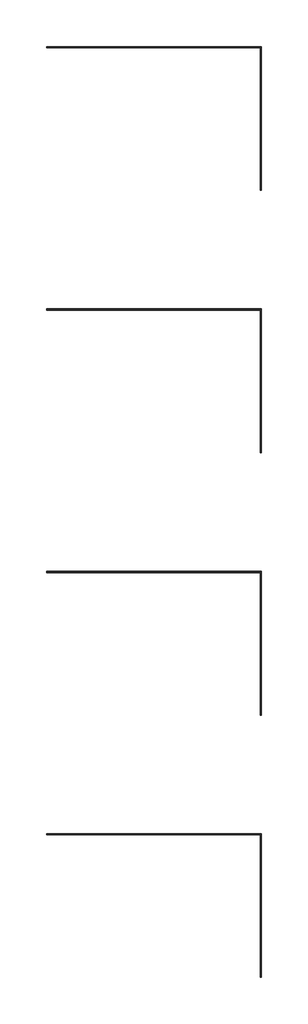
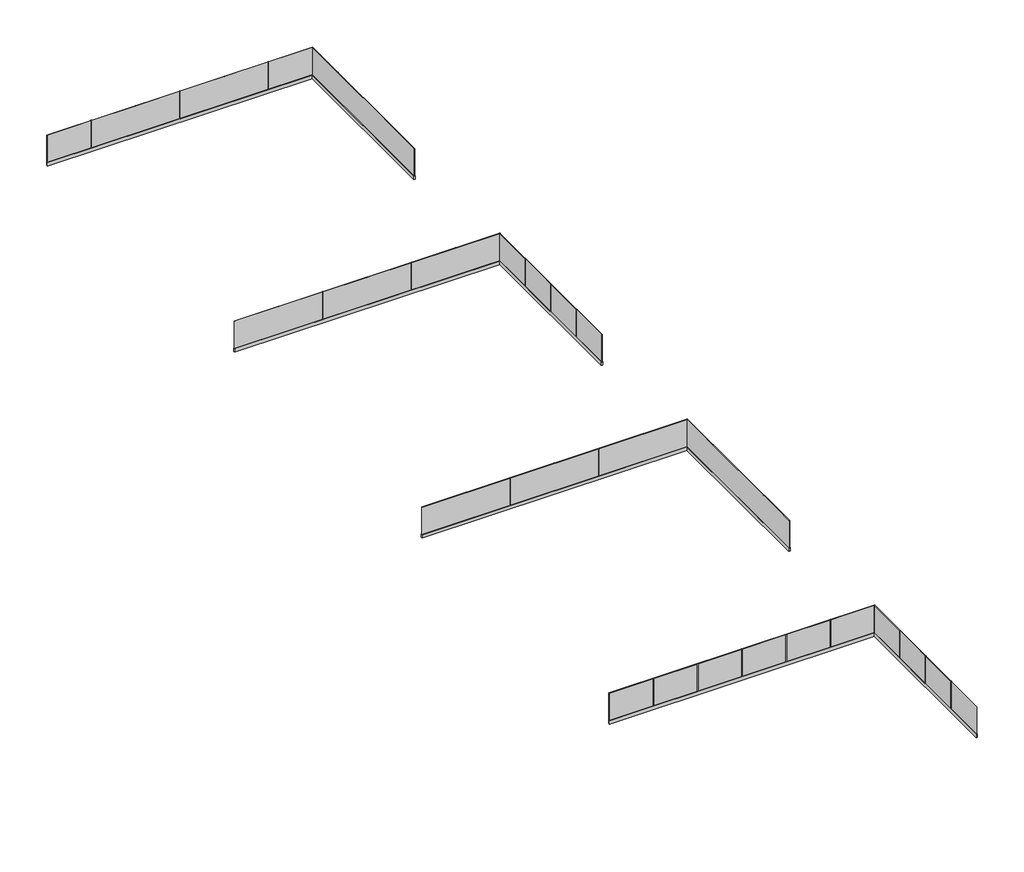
# One storey: 4 railings.
"""IFC4 building model written with IfcOpenShell, lengths in millimetres."""

from ifc_helpers import new_model, si_unit, frame, origin, place, context, project, spatial, polyline, outline, extrude, faceted_brep, element, save

model = new_model("IFC4")

# Units and contexts
model_context = context("Model", 3, world=origin())
ifc_project = project(units=[si_unit("LENGTHUNIT", "METRE", prefix="MILLI")], contexts=[model_context])

# Site, building, storey
site = spatial("IfcSite", under=ifc_project)
building = spatial("IfcBuilding", under=site)
storey = spatial("IfcBuildingStorey", under=building, Name="レベル 1", Elevation=0.0)

# Railings
placement = place(None, origin())
element("IfcRailing", 1, ObjectType="バラストレイド スリムタイプ 床付用 ガラス12mm", at=placement, inside=storey, context=model_context, shape_type="SolidModel", body=[
    faceted_brep([(-7072.0241721, 2607.537995, 1100.0), (-7072.0241721, 2607.537995, 124.0), (-7072.0241721, 2595.537995, 124.0), (-7072.0241721, 2595.537995, 1100.0), (1933.9758279, 2607.537995, 1100.0), (1933.9758279, 2607.537995, 124.0), (1921.9758279, 2595.537995, 124.0), (1921.9758279, 2595.537995, 1100.0), (1933.9758279, -3398.462005, 1100.0), (1921.9758279, -3398.462005, 1100.0), (1921.9758279, -3398.462005, 124.0), (1933.9758279, -3398.462005, 124.0)], [[[0, 1, 2, 3]], [[1, 0, 4, 5]], [[2, 1, 5, 6]], [[3, 2, 6, 7]], [[0, 3, 7, 4]], [[8, 9, 10, 11]], [[5, 4, 8, 11]], [[6, 5, 11, 10]], [[7, 6, 10, 9]], [[4, 7, 9, 8]]]),
    faceted_brep([(-7072.0241721, 2577.037995, 0.0), (-7072.0241721, 2577.037995, 124.0), (-7072.0241721, 2626.037995, 124.0), (-7072.0241721, 2626.037995, 0.0), (1903.4758279, -3398.462005, 0.0), (1952.4758279, -3398.462005, 0.0), (1952.4758279, -3398.462005, 124.0), (1903.4758279, -3398.462005, 124.0), (1952.4758279, 2626.037995, 0.0), (1903.4758279, 2577.037995, 0.0), (1952.4758279, 2626.037995, 124.0), (1903.4758279, 2577.037995, 124.0)], [[[0, 1, 2, 3]], [[4, 5, 6, 7]], [[0, 3, 8, 9]], [[3, 2, 10, 8]], [[2, 1, 11, 10]], [[1, 0, 9, 11]], [[9, 8, 5, 4]], [[8, 10, 6, 5]], [[10, 11, 7, 6]], [[11, 9, 4, 7]]]),
    extrude(outline(polyline([(1933.9758279, -1888.462005), (1933.9758279, -1908.462005), (1921.9758279, -1908.462005), (1921.9758279, -1888.462005), (1933.9758279, -1888.462005)])), frame((0.0, 0.0, 124.0), z_axis=(0.0, 0.0, 1.0), x_axis=(1.0, 0.0, 0.0)), (0.0, 0.0, 1.0), 976.0),
    extrude(outline(polyline([(1933.9758279, -388.462005), (1933.9758279, -408.462005), (1921.9758279, -408.462005), (1921.9758279, -388.462005), (1933.9758279, -388.462005)])), frame((0.0, 0.0, 124.0), z_axis=(0.0, 0.0, 1.0), x_axis=(1.0, 0.0, 0.0)), (0.0, 0.0, 1.0), 976.0),
    extrude(outline(polyline([(1933.9758279, 1111.537995), (1933.9758279, 1091.537995), (1921.9758279, 1091.537995), (1921.9758279, 1111.537995), (1933.9758279, 1111.537995)])), frame((0.0, 0.0, 124.0), z_axis=(0.0, 0.0, 1.0), x_axis=(1.0, 0.0, 0.0)), (0.0, 0.0, 1.0), 976.0),
    extrude(outline(polyline([(417.9758279, 2607.537995), (437.9758279, 2607.537995), (437.9758279, 2595.537995), (417.9758279, 2595.537995), (417.9758279, 2607.537995)])), frame((0.0, 0.0, 124.0), z_axis=(0.0, 0.0, 1.0), x_axis=(1.0, 0.0, 0.0)), (0.0, 0.0, 1.0), 976.0),
    extrude(outline(polyline([(-1082.0241721, 2607.537995), (-1062.0241721, 2607.537995), (-1062.0241721, 2595.537995), (-1082.0241721, 2595.537995), (-1082.0241721, 2607.537995)])), frame((0.0, 0.0, 124.0), z_axis=(0.0, 0.0, 1.0), x_axis=(1.0, 0.0, 0.0)), (0.0, 0.0, 1.0), 976.0),
    extrude(outline(polyline([(-2582.0241721, 2607.537995), (-2562.0241721, 2607.537995), (-2562.0241721, 2595.537995), (-2582.0241721, 2595.537995), (-2582.0241721, 2607.537995)])), frame((0.0, 0.0, 124.0), z_axis=(0.0, 0.0, 1.0), x_axis=(1.0, 0.0, 0.0)), (0.0, 0.0, 1.0), 976.0),
    extrude(outline(polyline([(-4082.0241721, 2607.537995), (-4062.0241721, 2607.537995), (-4062.0241721, 2595.537995), (-4082.0241721, 2595.537995), (-4082.0241721, 2607.537995)])), frame((0.0, 0.0, 124.0), z_axis=(0.0, 0.0, 1.0), x_axis=(1.0, 0.0, 0.0)), (0.0, 0.0, 1.0), 976.0),
    extrude(outline(polyline([(-5582.0241721, 2607.537995), (-5562.0241721, 2607.537995), (-5562.0241721, 2595.537995), (-5582.0241721, 2595.537995), (-5582.0241721, 2607.537995)])), frame((0.0, 0.0, 124.0), z_axis=(0.0, 0.0, 1.0), x_axis=(1.0, 0.0, 0.0)), (0.0, 0.0, 1.0), 976.0),
    extrude(outline(polyline([(1921.9758279, 2607.537995), (1933.9758279, 2607.537995), (1933.9758279, 2595.537995), (1921.9758279, 2595.537995), (1921.9758279, 2607.537995)])), frame((0.0, 0.0, 124.0), z_axis=(0.0, 0.0, 1.0), x_axis=(1.0, 0.0, 0.0)), (0.0, 0.0, 1.0), 976.0),
])
element("IfcRailing", 2, ObjectType="バラストレイド スリムタイプ 床付用 ガラス 15mm", at=placement, inside=storey, context=model_context, shape_type="SolidModel", body=[
    faceted_brep([(-7072.0241721, -8390.962005, 1100.0), (-7072.0241721, -8390.962005, 124.0), (-7072.0241721, -8405.962005, 124.0), (-7072.0241721, -8405.962005, 1100.0), (1935.4758279, -8390.962005, 1100.0), (1935.4758279, -8390.962005, 124.0), (1920.4758279, -8405.962005, 124.0), (1920.4758279, -8405.962005, 1100.0), (1935.4758279, -14398.462005, 1100.0), (1920.4758279, -14398.462005, 1100.0), (1920.4758279, -14398.462005, 124.0), (1935.4758279, -14398.462005, 124.0)], [[[0, 1, 2, 3]], [[1, 0, 4, 5]], [[2, 1, 5, 6]], [[3, 2, 6, 7]], [[0, 3, 7, 4]], [[8, 9, 10, 11]], [[5, 4, 8, 11]], [[6, 5, 11, 10]], [[7, 6, 10, 9]], [[4, 7, 9, 8]]]),
    faceted_brep([(-7072.0241721, -8422.962005, 0.0), (-7072.0241721, -8422.962005, 124.0), (-7072.0241721, -8373.962005, 124.0), (-7072.0241721, -8373.962005, 0.0), (1903.4758279, -14398.462005, 0.0), (1952.4758279, -14398.462005, 0.0), (1952.4758279, -14398.462005, 124.0), (1903.4758279, -14398.462005, 124.0), (1952.4758279, -8373.962005, 0.0), (1903.4758279, -8422.962005, 0.0), (1952.4758279, -8373.962005, 124.0), (1903.4758279, -8422.962005, 124.0)], [[[0, 1, 2, 3]], [[4, 5, 6, 7]], [[0, 3, 8, 9]], [[3, 2, 10, 8]], [[2, 1, 11, 10]], [[1, 0, 9, 11]], [[9, 8, 5, 4]], [[8, 10, 6, 5]], [[10, 11, 7, 6]], [[11, 9, 4, 7]]]),
    extrude(outline(polyline([(1935.4758279, -12888.462005), (1935.4758279, -12908.462005), (1920.4758279, -12908.462005), (1920.4758279, -12888.462005), (1935.4758279, -12888.462005)])), frame((0.0, 0.0, 124.0), z_axis=(0.0, 0.0, 1.0), x_axis=(1.0, 0.0, 0.0)), (0.0, 0.0, 1.0), 976.0),
    extrude(outline(polyline([(1935.4758279, -11388.462005), (1935.4758279, -11408.462005), (1920.4758279, -11408.462005), (1920.4758279, -11388.462005), (1935.4758279, -11388.462005)])), frame((0.0, 0.0, 124.0), z_axis=(0.0, 0.0, 1.0), x_axis=(1.0, 0.0, 0.0)), (0.0, 0.0, 1.0), 976.0),
    extrude(outline(polyline([(1935.4758279, -9888.462005), (1935.4758279, -9908.462005), (1920.4758279, -9908.462005), (1920.4758279, -9888.462005), (1935.4758279, -9888.462005)])), frame((0.0, 0.0, 124.0), z_axis=(0.0, 0.0, 1.0), x_axis=(1.0, 0.0, 0.0)), (0.0, 0.0, 1.0), 976.0),
    extrude(outline(polyline([(417.9758279, -8390.962005), (437.9758279, -8390.962005), (437.9758279, -8405.962005), (417.9758279, -8405.962005), (417.9758279, -8390.962005)])), frame((0.0, 0.0, 124.0), z_axis=(0.0, 0.0, 1.0), x_axis=(1.0, 0.0, 0.0)), (0.0, 0.0, 1.0), 976.0),
    extrude(outline(polyline([(-1082.0241721, -8390.962005), (-1062.0241721, -8390.962005), (-1062.0241721, -8405.962005), (-1082.0241721, -8405.962005), (-1082.0241721, -8390.962005)])), frame((0.0, 0.0, 124.0), z_axis=(0.0, 0.0, 1.0), x_axis=(1.0, 0.0, 0.0)), (0.0, 0.0, 1.0), 976.0),
    extrude(outline(polyline([(-2582.0241721, -8390.962005), (-2562.0241721, -8390.962005), (-2562.0241721, -8405.962005), (-2582.0241721, -8405.962005), (-2582.0241721, -8390.962005)])), frame((0.0, 0.0, 124.0), z_axis=(0.0, 0.0, 1.0), x_axis=(1.0, 0.0, 0.0)), (0.0, 0.0, 1.0), 976.0),
    extrude(outline(polyline([(-4082.0241721, -8390.962005), (-4062.0241721, -8390.962005), (-4062.0241721, -8405.962005), (-4082.0241721, -8405.962005), (-4082.0241721, -8390.962005)])), frame((0.0, 0.0, 124.0), z_axis=(0.0, 0.0, 1.0), x_axis=(1.0, 0.0, 0.0)), (0.0, 0.0, 1.0), 976.0),
    extrude(outline(polyline([(-5582.0241721, -8390.962005), (-5562.0241721, -8390.962005), (-5562.0241721, -8405.962005), (-5582.0241721, -8405.962005), (-5582.0241721, -8390.962005)])), frame((0.0, 0.0, 124.0), z_axis=(0.0, 0.0, 1.0), x_axis=(1.0, 0.0, 0.0)), (0.0, 0.0, 1.0), 976.0),
    extrude(outline(polyline([(1920.4758279, -8390.962005), (1935.4758279, -8390.962005), (1935.4758279, -8405.962005), (1920.4758279, -8405.962005), (1920.4758279, -8390.962005)])), frame((0.0, 0.0, 124.0), z_axis=(0.0, 0.0, 1.0), x_axis=(1.0, 0.0, 0.0)), (0.0, 0.0, 1.0), 976.0),
])
element("IfcRailing", 3, ObjectType="バラストレイド スリムタイプ 床付用 ガラス8+8mm", at=placement, inside=storey, context=model_context, shape_type="SolidModel", body=[
    faceted_brep([(-7072.0241721, -19389.712005, 1100.0), (-7072.0241721, -19389.712005, 124.0), (-7072.0241721, -19407.212005, 124.0), (-7072.0241721, -19407.212005, 1100.0), (1936.7258279, -19389.712005, 1100.0), (1936.7258279, -19389.712005, 124.0), (1919.2258279, -19407.212005, 124.0), (1919.2258279, -19407.212005, 1100.0), (1936.7258279, -25398.462005, 1100.0), (1919.2258279, -25398.462005, 1100.0), (1919.2258279, -25398.462005, 124.0), (1936.7258279, -25398.462005, 124.0)], [[[0, 1, 2, 3]], [[1, 0, 4, 5]], [[2, 1, 5, 6]], [[3, 2, 6, 7]], [[0, 3, 7, 4]], [[8, 9, 10, 11]], [[5, 4, 8, 11]], [[6, 5, 11, 10]], [[7, 6, 10, 9]], [[4, 7, 9, 8]]]),
    faceted_brep([(-7072.0241721, -19422.962005, 0.0), (-7072.0241721, -19422.962005, 124.0), (-7072.0241721, -19373.962005, 124.0), (-7072.0241721, -19373.962005, 0.0), (1903.4758279, -25398.462005, 0.0), (1952.4758279, -25398.462005, 0.0), (1952.4758279, -25398.462005, 124.0), (1903.4758279, -25398.462005, 124.0), (1952.4758279, -19373.962005, 0.0), (1903.4758279, -19422.962005, 0.0), (1952.4758279, -19373.962005, 124.0), (1903.4758279, -19422.962005, 124.0)], [[[0, 1, 2, 3]], [[4, 5, 6, 7]], [[0, 3, 8, 9]], [[3, 2, 10, 8]], [[2, 1, 11, 10]], [[1, 0, 9, 11]], [[9, 8, 5, 4]], [[8, 10, 6, 5]], [[10, 11, 7, 6]], [[11, 9, 4, 7]]]),
    extrude(outline(polyline([(1936.7258279, -23888.462005), (1936.7258279, -23908.462005), (1919.2258279, -23908.462005), (1919.2258279, -23888.462005), (1936.7258279, -23888.462005)])), frame((0.0, 0.0, 124.0), z_axis=(0.0, 0.0, 1.0), x_axis=(1.0, 0.0, 0.0)), (0.0, 0.0, 1.0), 976.0),
    extrude(outline(polyline([(1936.7258279, -22388.462005), (1936.7258279, -22408.462005), (1919.2258279, -22408.462005), (1919.2258279, -22388.462005), (1936.7258279, -22388.462005)])), frame((0.0, 0.0, 124.0), z_axis=(0.0, 0.0, 1.0), x_axis=(1.0, 0.0, 0.0)), (0.0, 0.0, 1.0), 976.0),
    extrude(outline(polyline([(1936.7258279, -20888.462005), (1936.7258279, -20908.462005), (1919.2258279, -20908.462005), (1919.2258279, -20888.462005), (1936.7258279, -20888.462005)])), frame((0.0, 0.0, 124.0), z_axis=(0.0, 0.0, 1.0), x_axis=(1.0, 0.0, 0.0)), (0.0, 0.0, 1.0), 976.0),
    extrude(outline(polyline([(417.9758279, -19389.712005), (437.9758279, -19389.712005), (437.9758279, -19407.212005), (417.9758279, -19407.212005), (417.9758279, -19389.712005)])), frame((0.0, 0.0, 124.0), z_axis=(0.0, 0.0, 1.0), x_axis=(1.0, 0.0, 0.0)), (0.0, 0.0, 1.0), 976.0),
    extrude(outline(polyline([(-1082.0241721, -19389.712005), (-1062.0241721, -19389.712005), (-1062.0241721, -19407.212005), (-1082.0241721, -19407.212005), (-1082.0241721, -19389.712005)])), frame((0.0, 0.0, 124.0), z_axis=(0.0, 0.0, 1.0), x_axis=(1.0, 0.0, 0.0)), (0.0, 0.0, 1.0), 976.0),
    extrude(outline(polyline([(-2582.0241721, -19389.712005), (-2562.0241721, -19389.712005), (-2562.0241721, -19407.212005), (-2582.0241721, -19407.212005), (-2582.0241721, -19389.712005)])), frame((0.0, 0.0, 124.0), z_axis=(0.0, 0.0, 1.0), x_axis=(1.0, 0.0, 0.0)), (0.0, 0.0, 1.0), 976.0),
    extrude(outline(polyline([(-4082.0241721, -19389.712005), (-4062.0241721, -19389.712005), (-4062.0241721, -19407.212005), (-4082.0241721, -19407.212005), (-4082.0241721, -19389.712005)])), frame((0.0, 0.0, 124.0), z_axis=(0.0, 0.0, 1.0), x_axis=(1.0, 0.0, 0.0)), (0.0, 0.0, 1.0), 976.0),
    extrude(outline(polyline([(-5582.0241721, -19389.712005), (-5562.0241721, -19389.712005), (-5562.0241721, -19407.212005), (-5582.0241721, -19407.212005), (-5582.0241721, -19389.712005)])), frame((0.0, 0.0, 124.0), z_axis=(0.0, 0.0, 1.0), x_axis=(1.0, 0.0, 0.0)), (0.0, 0.0, 1.0), 976.0),
    extrude(outline(polyline([(1919.2258279, -19389.712005), (1936.7258279, -19389.712005), (1936.7258279, -19407.212005), (1919.2258279, -19407.212005), (1919.2258279, -19389.712005)])), frame((0.0, 0.0, 124.0), z_axis=(0.0, 0.0, 1.0), x_axis=(1.0, 0.0, 0.0)), (0.0, 0.0, 1.0), 976.0),
])
element("IfcRailing", 4, ObjectType="バラストレイド スリムタイプ 床付用 ガラス10+10mm", at=placement, inside=storey, context=model_context, shape_type="SolidModel", body=[
    faceted_brep([(-7072.0241721, -30392.462005, 1100.0), (-7072.0241721, -30392.462005, 124.0), (-7072.0241721, -30404.462005, 124.0), (-7072.0241721, -30404.462005, 1100.0), (1933.9758279, -30392.462005, 1100.0), (1933.9758279, -30392.462005, 124.0), (1921.9758279, -30404.462005, 124.0), (1921.9758279, -30404.462005, 1100.0), (1933.9758279, -36398.462005, 1100.0), (1921.9758279, -36398.462005, 1100.0), (1921.9758279, -36398.462005, 124.0), (1933.9758279, -36398.462005, 124.0)], [[[0, 1, 2, 3]], [[1, 0, 4, 5]], [[2, 1, 5, 6]], [[3, 2, 6, 7]], [[0, 3, 7, 4]], [[8, 9, 10, 11]], [[5, 4, 8, 11]], [[6, 5, 11, 10]], [[7, 6, 10, 9]], [[4, 7, 9, 8]]]),
    faceted_brep([(-7072.0241721, -30422.962005, 0.0), (-7072.0241721, -30422.962005, 124.0), (-7072.0241721, -30373.962005, 124.0), (-7072.0241721, -30373.962005, 0.0), (1903.4758279, -36398.462005, 0.0), (1952.4758279, -36398.462005, 0.0), (1952.4758279, -36398.462005, 124.0), (1903.4758279, -36398.462005, 124.0), (1952.4758279, -30373.962005, 0.0), (1903.4758279, -30422.962005, 0.0), (1952.4758279, -30373.962005, 124.0), (1903.4758279, -30422.962005, 124.0)], [[[0, 1, 2, 3]], [[4, 5, 6, 7]], [[0, 3, 8, 9]], [[3, 2, 10, 8]], [[2, 1, 11, 10]], [[1, 0, 9, 11]], [[9, 8, 5, 4]], [[8, 10, 6, 5]], [[10, 11, 7, 6]], [[11, 9, 4, 7]]]),
    extrude(outline(polyline([(1938.7258279, -34888.462005), (1938.7258279, -34908.462005), (1917.2258279, -34908.462005), (1917.2258279, -34888.462005), (1938.7258279, -34888.462005)])), frame((0.0, 0.0, 124.0), z_axis=(0.0, 0.0, 1.0), x_axis=(1.0, 0.0, 0.0)), (0.0, 0.0, 1.0), 976.0),
    extrude(outline(polyline([(1938.7258279, -33388.462005), (1938.7258279, -33408.462005), (1917.2258279, -33408.462005), (1917.2258279, -33388.462005), (1938.7258279, -33388.462005)])), frame((0.0, 0.0, 124.0), z_axis=(0.0, 0.0, 1.0), x_axis=(1.0, 0.0, 0.0)), (0.0, 0.0, 1.0), 976.0),
    extrude(outline(polyline([(1938.7258279, -31888.462005), (1938.7258279, -31908.462005), (1917.2258279, -31908.462005), (1917.2258279, -31888.462005), (1938.7258279, -31888.462005)])), frame((0.0, 0.0, 124.0), z_axis=(0.0, 0.0, 1.0), x_axis=(1.0, 0.0, 0.0)), (0.0, 0.0, 1.0), 976.0),
    extrude(outline(polyline([(417.9758279, -30387.712005), (437.9758279, -30387.712005), (437.9758279, -30409.212005), (417.9758279, -30409.212005), (417.9758279, -30387.712005)])), frame((0.0, 0.0, 124.0), z_axis=(0.0, 0.0, 1.0), x_axis=(1.0, 0.0, 0.0)), (0.0, 0.0, 1.0), 976.0),
    extrude(outline(polyline([(-1082.0241721, -30387.712005), (-1062.0241721, -30387.712005), (-1062.0241721, -30409.212005), (-1082.0241721, -30409.212005), (-1082.0241721, -30387.712005)])), frame((0.0, 0.0, 124.0), z_axis=(0.0, 0.0, 1.0), x_axis=(1.0, 0.0, 0.0)), (0.0, 0.0, 1.0), 976.0),
    extrude(outline(polyline([(-2582.0241721, -30387.712005), (-2562.0241721, -30387.712005), (-2562.0241721, -30409.212005), (-2582.0241721, -30409.212005), (-2582.0241721, -30387.712005)])), frame((0.0, 0.0, 124.0), z_axis=(0.0, 0.0, 1.0), x_axis=(1.0, 0.0, 0.0)), (0.0, 0.0, 1.0), 976.0),
    extrude(outline(polyline([(-4082.0241721, -30387.712005), (-4062.0241721, -30387.712005), (-4062.0241721, -30409.212005), (-4082.0241721, -30409.212005), (-4082.0241721, -30387.712005)])), frame((0.0, 0.0, 124.0), z_axis=(0.0, 0.0, 1.0), x_axis=(1.0, 0.0, 0.0)), (0.0, 0.0, 1.0), 976.0),
    extrude(outline(polyline([(-5582.0241721, -30387.712005), (-5562.0241721, -30387.712005), (-5562.0241721, -30409.212005), (-5582.0241721, -30409.212005), (-5582.0241721, -30387.712005)])), frame((0.0, 0.0, 124.0), z_axis=(0.0, 0.0, 1.0), x_axis=(1.0, 0.0, 0.0)), (0.0, 0.0, 1.0), 976.0),
    extrude(outline(polyline([(1917.2258279, -30387.712005), (1938.7258279, -30387.712005), (1938.7258279, -30409.212005), (1917.2258279, -30409.212005), (1917.2258279, -30387.712005)])), frame((0.0, 0.0, 124.0), z_axis=(0.0, 0.0, 1.0), x_axis=(1.0, 0.0, 0.0)), (0.0, 0.0, 1.0), 976.0),
])

save(model, "model.ifc")
